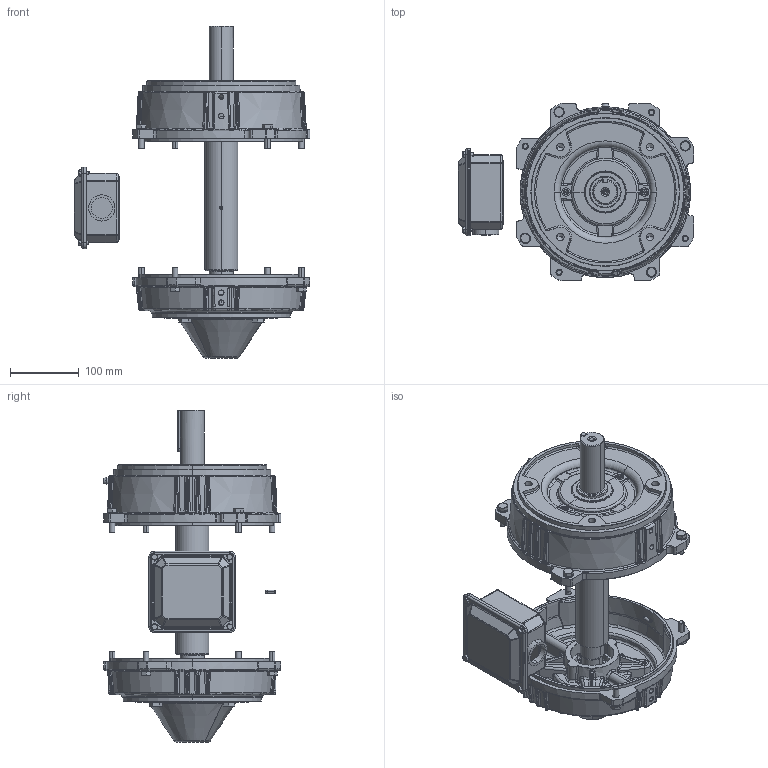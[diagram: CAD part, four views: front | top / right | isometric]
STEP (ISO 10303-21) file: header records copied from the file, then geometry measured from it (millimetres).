
FILE_DESCRIPTION (( 'STEP AP203' ), '1' );
FILE_NAME ('SS810150-100_RevC.STEP', '2022-07-15T04:13:15', ( '' ), ( '' ), 'SwSTEP 2.0', 'SolidWorks 2021', '' );
FILE_SCHEMA (( 'CONFIG_CONTROL_DESIGN' ));
Products named in the file (1): SS810150-100_RevC
Bounding box: 341.92 x 257.62 x 481.53 mm (x, y, z)
Volume: 2496826.9 mm3; surface area: 754514.9 mm2
Topology: 42 solids, 42 shells, 3418 faces, 7918 edges, 4575 vertices
Faces by surface type: bspline 921, cylinder 765, plane 630, torus 502, cone 375, sphere 225
Entity records: 258977 total; most frequent: CARTESIAN_POINT 124524, ORIENTED_EDGE 30348, DIRECTION 25940, EDGE_CURVE 15174, AXIS2_PLACEMENT_3D 11131, VERTEX_POINT 8940, CIRCLE 6638, EDGE_LOOP 6633
